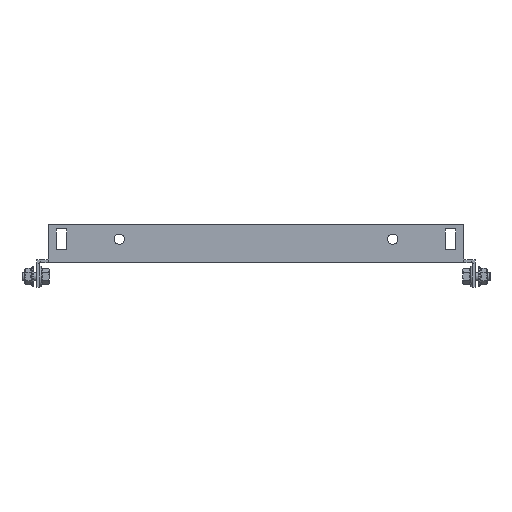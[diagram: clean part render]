
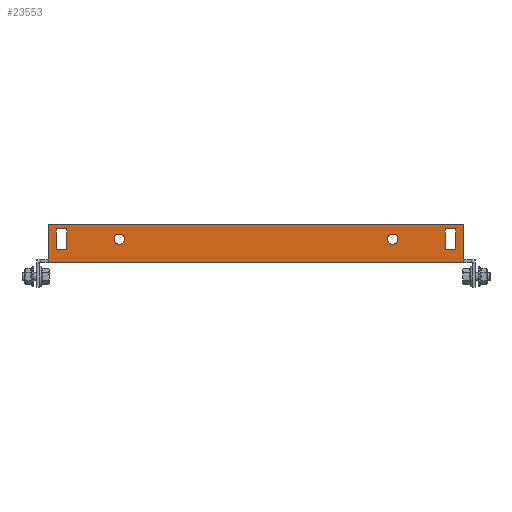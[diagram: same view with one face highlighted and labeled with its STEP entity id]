
A CAD part, front view. The second image highlights one B-rep face of the part: STEP entity #23553.
In plain terms, the highlighted planar face has unit normal (0, -1, 0).
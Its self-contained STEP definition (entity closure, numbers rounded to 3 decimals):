
#20374 = VERTEX_POINT('',#20375);
#20375 = CARTESIAN_POINT('',(142.,-184.5,0.));
#20381 = EDGE_CURVE('',#20382,#20374,#20384,.T.);
#20382 = VERTEX_POINT('',#20383);
#20383 = CARTESIAN_POINT('',(-142.,-184.5,0.));
#20384 = LINE('',#20385,#20386);
#20385 = CARTESIAN_POINT('',(-142.,-184.5,0.));
#20386 = VECTOR('',#20387,1.);
#20387 = DIRECTION('',(1.,-0.,-0.));
#23432 = VERTEX_POINT('',#23433);
#23433 = CARTESIAN_POINT('',(-142.,-184.5,2.6));
#23448 = EDGE_CURVE('',#23432,#20382,#23449,.T.);
#23449 = LINE('',#23450,#23451);
#23450 = CARTESIAN_POINT('',(-142.,-184.5,2.6));
#23451 = VECTOR('',#23452,1.);
#23452 = DIRECTION('',(0.,0.,-1.));
#23472 = VERTEX_POINT('',#23473);
#23473 = CARTESIAN_POINT('',(142.,-184.5,2.6));
#23479 = EDGE_CURVE('',#23472,#20374,#23480,.T.);
#23480 = LINE('',#23481,#23482);
#23481 = CARTESIAN_POINT('',(142.,-184.5,2.));
#23482 = VECTOR('',#23483,1.);
#23483 = DIRECTION('',(-0.,0.,-1.));
#23505 = VERTEX_POINT('',#23506);
#23506 = CARTESIAN_POINT('',(142.,-184.5,26.));
#23512 = EDGE_CURVE('',#23472,#23505,#23513,.T.);
#23513 = LINE('',#23514,#23515);
#23514 = CARTESIAN_POINT('',(142.,-184.5,26.));
#23515 = VECTOR('',#23516,1.);
#23516 = DIRECTION('',(-0.,0.,1.));
#23527 = EDGE_CURVE('',#23528,#23432,#23530,.T.);
#23528 = VERTEX_POINT('',#23529);
#23529 = CARTESIAN_POINT('',(-142.,-184.5,26.));
#23530 = LINE('',#23531,#23532);
#23531 = CARTESIAN_POINT('',(-142.,-184.5,2.));
#23532 = VECTOR('',#23533,1.);
#23533 = DIRECTION('',(-0.,0.,-1.));
#23553 = ADVANCED_FACE('',(#23554,#23588,#23599,#23610,#23644),#23657,
  .F.);
#23554 = FACE_BOUND('',#23555,.T.);
#23555 = EDGE_LOOP('',(#23556,#23566,#23574,#23582));
#23556 = ORIENTED_EDGE('',*,*,#23557,.F.);
#23557 = EDGE_CURVE('',#23558,#23560,#23562,.T.);
#23558 = VERTEX_POINT('',#23559);
#23559 = CARTESIAN_POINT('',(136.5,-184.5,9.));
#23560 = VERTEX_POINT('',#23561);
#23561 = CARTESIAN_POINT('',(136.5,-184.5,23.));
#23562 = LINE('',#23563,#23564);
#23563 = CARTESIAN_POINT('',(136.5,-184.5,23.));
#23564 = VECTOR('',#23565,1.);
#23565 = DIRECTION('',(-0.,0.,1.));
#23566 = ORIENTED_EDGE('',*,*,#23567,.F.);
#23567 = EDGE_CURVE('',#23568,#23558,#23570,.T.);
#23568 = VERTEX_POINT('',#23569);
#23569 = CARTESIAN_POINT('',(129.5,-184.5,9.));
#23570 = LINE('',#23571,#23572);
#23571 = CARTESIAN_POINT('',(136.5,-184.5,9.));
#23572 = VECTOR('',#23573,1.);
#23573 = DIRECTION('',(1.,-0.,-0.));
#23574 = ORIENTED_EDGE('',*,*,#23575,.F.);
#23575 = EDGE_CURVE('',#23576,#23568,#23578,.T.);
#23576 = VERTEX_POINT('',#23577);
#23577 = CARTESIAN_POINT('',(129.5,-184.5,23.));
#23578 = LINE('',#23579,#23580);
#23579 = CARTESIAN_POINT('',(129.5,-184.5,9.));
#23580 = VECTOR('',#23581,1.);
#23581 = DIRECTION('',(0.,0.,-1.));
#23582 = ORIENTED_EDGE('',*,*,#23583,.F.);
#23583 = EDGE_CURVE('',#23560,#23576,#23584,.T.);
#23584 = LINE('',#23585,#23586);
#23585 = CARTESIAN_POINT('',(129.5,-184.5,23.));
#23586 = VECTOR('',#23587,1.);
#23587 = DIRECTION('',(-1.,-0.,-0.));
#23588 = FACE_BOUND('',#23589,.T.);
#23589 = EDGE_LOOP('',(#23590));
#23590 = ORIENTED_EDGE('',*,*,#23591,.F.);
#23591 = EDGE_CURVE('',#23592,#23592,#23594,.T.);
#23592 = VERTEX_POINT('',#23593);
#23593 = CARTESIAN_POINT('',(93.5,-184.5,19.5));
#23594 = CIRCLE('',#23595,3.5);
#23595 = AXIS2_PLACEMENT_3D('',#23596,#23597,#23598);
#23596 = CARTESIAN_POINT('',(93.5,-184.5,16.));
#23597 = DIRECTION('',(0.,-1.,0.));
#23598 = DIRECTION('',(0.,0.,1.));
#23599 = FACE_BOUND('',#23600,.T.);
#23600 = EDGE_LOOP('',(#23601));
#23601 = ORIENTED_EDGE('',*,*,#23602,.F.);
#23602 = EDGE_CURVE('',#23603,#23603,#23605,.T.);
#23603 = VERTEX_POINT('',#23604);
#23604 = CARTESIAN_POINT('',(-93.5,-184.5,12.5));
#23605 = CIRCLE('',#23606,3.5);
#23606 = AXIS2_PLACEMENT_3D('',#23607,#23608,#23609);
#23607 = CARTESIAN_POINT('',(-93.5,-184.5,16.));
#23608 = DIRECTION('',(0.,-1.,0.));
#23609 = DIRECTION('',(0.,0.,-1.));
#23610 = FACE_BOUND('',#23611,.T.);
#23611 = EDGE_LOOP('',(#23612,#23622,#23630,#23638));
#23612 = ORIENTED_EDGE('',*,*,#23613,.F.);
#23613 = EDGE_CURVE('',#23614,#23616,#23618,.T.);
#23614 = VERTEX_POINT('',#23615);
#23615 = CARTESIAN_POINT('',(-136.5,-184.5,23.));
#23616 = VERTEX_POINT('',#23617);
#23617 = CARTESIAN_POINT('',(-136.5,-184.5,9.));
#23618 = LINE('',#23619,#23620);
#23619 = CARTESIAN_POINT('',(-136.5,-184.5,9.));
#23620 = VECTOR('',#23621,1.);
#23621 = DIRECTION('',(-0.,0.,-1.));
#23622 = ORIENTED_EDGE('',*,*,#23623,.F.);
#23623 = EDGE_CURVE('',#23624,#23614,#23626,.T.);
#23624 = VERTEX_POINT('',#23625);
#23625 = CARTESIAN_POINT('',(-129.5,-184.5,23.));
#23626 = LINE('',#23627,#23628);
#23627 = CARTESIAN_POINT('',(-136.5,-184.5,23.));
#23628 = VECTOR('',#23629,1.);
#23629 = DIRECTION('',(-1.,-0.,-0.));
#23630 = ORIENTED_EDGE('',*,*,#23631,.F.);
#23631 = EDGE_CURVE('',#23632,#23624,#23634,.T.);
#23632 = VERTEX_POINT('',#23633);
#23633 = CARTESIAN_POINT('',(-129.5,-184.5,9.));
#23634 = LINE('',#23635,#23636);
#23635 = CARTESIAN_POINT('',(-129.5,-184.5,23.));
#23636 = VECTOR('',#23637,1.);
#23637 = DIRECTION('',(-0.,0.,1.));
#23638 = ORIENTED_EDGE('',*,*,#23639,.F.);
#23639 = EDGE_CURVE('',#23616,#23632,#23640,.T.);
#23640 = LINE('',#23641,#23642);
#23641 = CARTESIAN_POINT('',(-129.5,-184.5,9.));
#23642 = VECTOR('',#23643,1.);
#23643 = DIRECTION('',(1.,-0.,-0.));
#23644 = FACE_BOUND('',#23645,.T.);
#23645 = EDGE_LOOP('',(#23646,#23647,#23648,#23649,#23650,#23651));
#23646 = ORIENTED_EDGE('',*,*,#23527,.T.);
#23647 = ORIENTED_EDGE('',*,*,#23448,.T.);
#23648 = ORIENTED_EDGE('',*,*,#20381,.T.);
#23649 = ORIENTED_EDGE('',*,*,#23479,.F.);
#23650 = ORIENTED_EDGE('',*,*,#23512,.T.);
#23651 = ORIENTED_EDGE('',*,*,#23652,.T.);
#23652 = EDGE_CURVE('',#23505,#23528,#23653,.T.);
#23653 = LINE('',#23654,#23655);
#23654 = CARTESIAN_POINT('',(-142.,-184.5,26.));
#23655 = VECTOR('',#23656,1.);
#23656 = DIRECTION('',(-1.,-0.,-0.));
#23657 = PLANE('',#23658);
#23658 = AXIS2_PLACEMENT_3D('',#23659,#23660,#23661);
#23659 = CARTESIAN_POINT('',(142.,-184.5,2.));
#23660 = DIRECTION('',(-0.,1.,0.));
#23661 = DIRECTION('',(0.,0.,1.));
